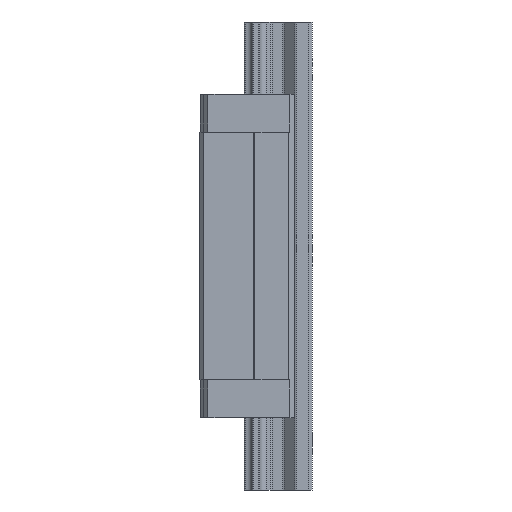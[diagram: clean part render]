
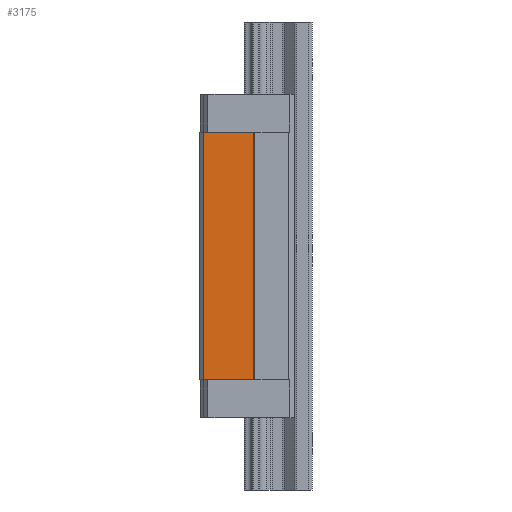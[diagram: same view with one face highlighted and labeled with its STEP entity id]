
A CAD part, left-side view. The second image highlights one B-rep face of the part: STEP entity #3175.
In plain terms, the highlighted planar face has unit normal (-1, 0, 0).
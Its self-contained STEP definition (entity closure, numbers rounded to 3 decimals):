
#68 = LINE ( 'NONE', #4458, #4850 ) ;
#99 = DIRECTION ( 'NONE',  ( 0., -1., 0. ) ) ;
#363 = LINE ( 'NONE', #5678, #2657 ) ;
#469 = EDGE_CURVE ( 'NONE', #723, #2032, #363, .T. ) ;
#540 = CARTESIAN_POINT ( 'NONE',  ( -35., 17.5, -52.9 ) ) ;
#723 = VERTEX_POINT ( 'NONE', #5809 ) ;
#1032 = LINE ( 'NONE', #1570, #4313 ) ;
#1161 = EDGE_CURVE ( 'NONE', #5697, #2032, #3194, .T. ) ;
#1570 = CARTESIAN_POINT ( 'NONE',  ( -35., 17.5, -52.9 ) ) ;
#1601 = EDGE_CURVE ( 'NONE', #4602, #723, #68, .T. ) ;
#1748 = PLANE ( 'NONE',  #2555 ) ;
#2032 = VERTEX_POINT ( 'NONE', #4315 ) ;
#2257 = EDGE_LOOP ( 'NONE', ( #6180, #4173, #5727, #4415 ) ) ;
#2503 = DIRECTION ( 'NONE',  ( 0., 0., -1. ) ) ;
#2555 = AXIS2_PLACEMENT_3D ( 'NONE', #5068, #6108, #3146 ) ;
#2657 = VECTOR ( 'NONE', #6146, 1000. ) ;
#2815 = DIRECTION ( 'NONE',  ( 0., -1., 0. ) ) ;
#2952 = EDGE_CURVE ( 'NONE', #4602, #5697, #1032, .T. ) ;
#3146 = DIRECTION ( 'NONE',  ( 0., 0., 1. ) ) ;
#3175 = ADVANCED_FACE ( 'NONE', ( #5170 ), #1748, .T. ) ;
#3194 = LINE ( 'NONE', #3797, #3831 ) ;
#3797 = CARTESIAN_POINT ( 'NONE',  ( -35., 0., -52.9 ) ) ;
#3831 = VECTOR ( 'NONE', #2815, 1000. ) ;
#4173 = ORIENTED_EDGE ( 'NONE', *, *, #1161, .T. ) ;
#4313 = VECTOR ( 'NONE', #2503, 1000. ) ;
#4315 = CARTESIAN_POINT ( 'NONE',  ( -35., -4., -52.9 ) ) ;
#4415 = ORIENTED_EDGE ( 'NONE', *, *, #1601, .F. ) ;
#4458 = CARTESIAN_POINT ( 'NONE',  ( -35., 0., 52.9 ) ) ;
#4462 = CARTESIAN_POINT ( 'NONE',  ( -35., 17.5, 52.9 ) ) ;
#4602 = VERTEX_POINT ( 'NONE', #4462 ) ;
#4850 = VECTOR ( 'NONE', #99, 1000. ) ;
#5068 = CARTESIAN_POINT ( 'NONE',  ( -35., 24.5, -52.9 ) ) ;
#5170 = FACE_OUTER_BOUND ( 'NONE', #2257, .T. ) ;
#5678 = CARTESIAN_POINT ( 'NONE',  ( -35., -4., 52.9 ) ) ;
#5697 = VERTEX_POINT ( 'NONE', #540 ) ;
#5727 = ORIENTED_EDGE ( 'NONE', *, *, #469, .F. ) ;
#5809 = CARTESIAN_POINT ( 'NONE',  ( -35., -4., 52.9 ) ) ;
#6108 = DIRECTION ( 'NONE',  ( -1., 0., 0. ) ) ;
#6146 = DIRECTION ( 'NONE',  ( 0., 0., -1. ) ) ;
#6180 = ORIENTED_EDGE ( 'NONE', *, *, #2952, .T. ) ;
